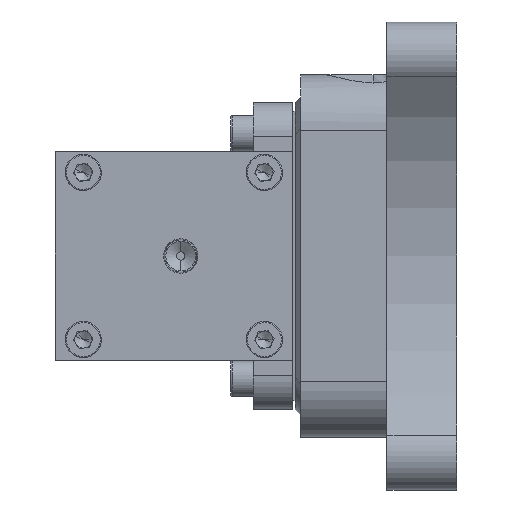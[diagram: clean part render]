
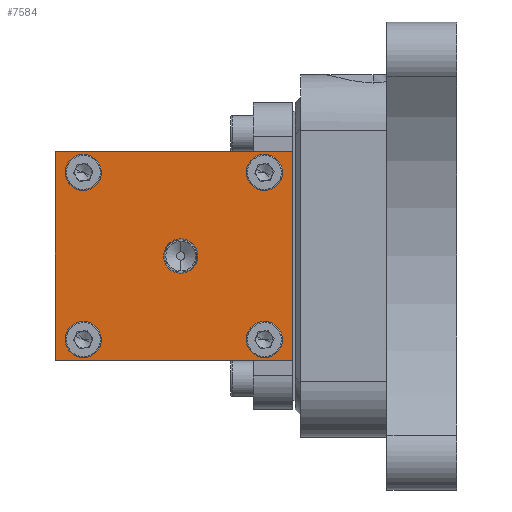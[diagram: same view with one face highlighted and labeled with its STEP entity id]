
A CAD part, left-side view. The second image highlights one B-rep face of the part: STEP entity #7584.
In plain terms, the highlighted planar face has unit normal (-1, 0, 0) as drawn and (1, 0, 0) by its records, which use the part's own axes.
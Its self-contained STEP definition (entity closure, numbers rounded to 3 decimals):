
#124 = CARTESIAN_POINT ( 'NONE',  ( 93., 11., -30. ) ) ;
#149 = ORIENTED_EDGE ( 'NONE', *, *, #5031, .F. ) ;
#232 = ORIENTED_EDGE ( 'NONE', *, *, #8127, .F. ) ;
#252 = VERTEX_POINT ( 'NONE', #3001 ) ;
#298 = ORIENTED_EDGE ( 'NONE', *, *, #5964, .F. ) ;
#521 = VECTOR ( 'NONE', #4876, 1000. ) ;
#529 = EDGE_CURVE ( 'NONE', #252, #8384, #2839, .T. ) ;
#627 = LINE ( 'NONE', #866, #6296 ) ;
#632 = CIRCLE ( 'NONE', #5971, 6.154 ) ;
#643 = DIRECTION ( 'NONE',  ( 0., 0., -1. ) ) ;
#647 = CARTESIAN_POINT ( 'NONE',  ( 93., 86., 37.5 ) ) ;
#813 = CARTESIAN_POINT ( 'NONE',  ( 93., 11., 26. ) ) ;
#833 = DIRECTION ( 'NONE',  ( 0., 0., -1. ) ) ;
#866 = CARTESIAN_POINT ( 'NONE',  ( 93., 86., -37.5 ) ) ;
#895 = FACE_BOUND ( 'NONE', #8436, .T. ) ;
#896 = EDGE_LOOP ( 'NONE', ( #1432, #8071 ) ) ;
#960 = EDGE_CURVE ( 'NONE', #6655, #9922, #6307, .T. ) ;
#961 = LINE ( 'NONE', #1494, #2906 ) ;
#1056 = EDGE_CURVE ( 'NONE', #9922, #6655, #1496, .T. ) ;
#1074 = VERTEX_POINT ( 'NONE', #6106 ) ;
#1097 = DIRECTION ( 'NONE',  ( 1., 0., 0. ) ) ;
#1156 = EDGE_CURVE ( 'NONE', #8384, #1074, #627, .T. ) ;
#1237 = CARTESIAN_POINT ( 'NONE',  ( 93., 76., -30. ) ) ;
#1286 = AXIS2_PLACEMENT_3D ( 'NONE', #5348, #8349, #7650 ) ;
#1300 = EDGE_CURVE ( 'NONE', #6313, #8486, #2473, .T. ) ;
#1404 = DIRECTION ( 'NONE',  ( 0., 0., -1. ) ) ;
#1415 = VERTEX_POINT ( 'NONE', #8415 ) ;
#1432 = ORIENTED_EDGE ( 'NONE', *, *, #9368, .F. ) ;
#1494 = CARTESIAN_POINT ( 'NONE',  ( 93., 86., 37.5 ) ) ;
#1496 = CIRCLE ( 'NONE', #1961, 4. ) ;
#1905 = EDGE_CURVE ( 'NONE', #9217, #6877, #5525, .T. ) ;
#1961 = AXIS2_PLACEMENT_3D ( 'NONE', #7686, #3002, #833 ) ;
#2031 = CIRCLE ( 'NONE', #1286, 4. ) ;
#2277 = DIRECTION ( 'NONE',  ( 0., 0., -1. ) ) ;
#2371 = CARTESIAN_POINT ( 'NONE',  ( 93., 11., -34. ) ) ;
#2410 = EDGE_LOOP ( 'NONE', ( #8240, #7606 ) ) ;
#2473 = CIRCLE ( 'NONE', #5049, 4. ) ;
#2519 = DIRECTION ( 'NONE',  ( 0., 0., -1. ) ) ;
#2534 = ORIENTED_EDGE ( 'NONE', *, *, #5666, .F. ) ;
#2642 = LINE ( 'NONE', #647, #3818 ) ;
#2779 = DIRECTION ( 'NONE',  ( 1., 0., 0. ) ) ;
#2839 = LINE ( 'NONE', #7923, #521 ) ;
#2906 = VECTOR ( 'NONE', #2277, 1000. ) ;
#2911 = DIRECTION ( 'NONE',  ( 0., 0., -1. ) ) ;
#2959 = CARTESIAN_POINT ( 'NONE',  ( 93., 1., -37.5 ) ) ;
#2978 = CARTESIAN_POINT ( 'NONE',  ( 93., 86., 37.5 ) ) ;
#2994 = CIRCLE ( 'NONE', #3409, 4. ) ;
#3001 = CARTESIAN_POINT ( 'NONE',  ( 93., 1., 37.5 ) ) ;
#3002 = DIRECTION ( 'NONE',  ( 1., 0., 0. ) ) ;
#3174 = DIRECTION ( 'NONE',  ( 1., 0., 0. ) ) ;
#3387 = AXIS2_PLACEMENT_3D ( 'NONE', #2978, #3741, #4508 ) ;
#3409 = AXIS2_PLACEMENT_3D ( 'NONE', #7472, #6009, #1404 ) ;
#3709 = CIRCLE ( 'NONE', #7332, 6.154 ) ;
#3722 = CARTESIAN_POINT ( 'NONE',  ( 93., 41., -6.154 ) ) ;
#3735 = AXIS2_PLACEMENT_3D ( 'NONE', #124, #7807, #3997 ) ;
#3741 = DIRECTION ( 'NONE',  ( -1., 0., 0. ) ) ;
#3818 = VECTOR ( 'NONE', #7645, 1000. ) ;
#3997 = DIRECTION ( 'NONE',  ( 0., 0., -1. ) ) ;
#4204 = CIRCLE ( 'NONE', #3735, 4. ) ;
#4469 = EDGE_CURVE ( 'NONE', #7731, #1074, #961, .T. ) ;
#4471 = CARTESIAN_POINT ( 'NONE',  ( 93., 11., -30. ) ) ;
#4508 = DIRECTION ( 'NONE',  ( 0., 0., 1. ) ) ;
#4625 = EDGE_CURVE ( 'NONE', #6877, #9217, #4204, .T. ) ;
#4631 = CARTESIAN_POINT ( 'NONE',  ( 93., 76., -34. ) ) ;
#4876 = DIRECTION ( 'NONE',  ( 0., 0., -1. ) ) ;
#5031 = EDGE_CURVE ( 'NONE', #8278, #5640, #3709, .T. ) ;
#5049 = AXIS2_PLACEMENT_3D ( 'NONE', #9768, #5932, #643 ) ;
#5056 = CARTESIAN_POINT ( 'NONE',  ( 93., 11., 30. ) ) ;
#5249 = DIRECTION ( 'NONE',  ( 1., 0., 0. ) ) ;
#5348 = CARTESIAN_POINT ( 'NONE',  ( 93., 76., 30. ) ) ;
#5378 = CARTESIAN_POINT ( 'NONE',  ( 93., 76., 26. ) ) ;
#5525 = CIRCLE ( 'NONE', #8819, 4. ) ;
#5629 = EDGE_CURVE ( 'NONE', #1415, #5775, #2994, .T. ) ;
#5640 = VERTEX_POINT ( 'NONE', #3722 ) ;
#5666 = EDGE_CURVE ( 'NONE', #8486, #6313, #2031, .T. ) ;
#5733 = CARTESIAN_POINT ( 'NONE',  ( 93., 11., -26. ) ) ;
#5755 = CARTESIAN_POINT ( 'NONE',  ( 93., 11., 34. ) ) ;
#5775 = VERTEX_POINT ( 'NONE', #4631 ) ;
#5827 = EDGE_LOOP ( 'NONE', ( #6171, #6681, #298, #7401 ) ) ;
#5932 = DIRECTION ( 'NONE',  ( 1., 0., 0. ) ) ;
#5949 = DIRECTION ( 'NONE',  ( 0., 0., -1. ) ) ;
#5964 = EDGE_CURVE ( 'NONE', #252, #7731, #2642, .T. ) ;
#5971 = AXIS2_PLACEMENT_3D ( 'NONE', #6359, #1097, #2519 ) ;
#6009 = DIRECTION ( 'NONE',  ( 1., 0., 0. ) ) ;
#6072 = AXIS2_PLACEMENT_3D ( 'NONE', #5056, #7226, #7999 ) ;
#6106 = CARTESIAN_POINT ( 'NONE',  ( 93., 86., -37.5 ) ) ;
#6171 = ORIENTED_EDGE ( 'NONE', *, *, #1156, .T. ) ;
#6296 = VECTOR ( 'NONE', #6353, 1000. ) ;
#6307 = CIRCLE ( 'NONE', #6072, 4. ) ;
#6312 = FACE_OUTER_BOUND ( 'NONE', #5827, .T. ) ;
#6313 = VERTEX_POINT ( 'NONE', #9451 ) ;
#6353 = DIRECTION ( 'NONE',  ( 0., 1., 0. ) ) ;
#6359 = CARTESIAN_POINT ( 'NONE',  ( 93., 41., 0. ) ) ;
#6655 = VERTEX_POINT ( 'NONE', #813 ) ;
#6681 = ORIENTED_EDGE ( 'NONE', *, *, #4469, .F. ) ;
#6706 = CARTESIAN_POINT ( 'NONE',  ( 93., 41., 0. ) ) ;
#6771 = FACE_BOUND ( 'NONE', #896, .T. ) ;
#6781 = PLANE ( 'NONE',  #3387 ) ;
#6877 = VERTEX_POINT ( 'NONE', #2371 ) ;
#7027 = FACE_BOUND ( 'NONE', #2410, .T. ) ;
#7226 = DIRECTION ( 'NONE',  ( 1., 0., 0. ) ) ;
#7235 = CIRCLE ( 'NONE', #9817, 4. ) ;
#7240 = ORIENTED_EDGE ( 'NONE', *, *, #1300, .F. ) ;
#7332 = AXIS2_PLACEMENT_3D ( 'NONE', #6706, #5249, #5949 ) ;
#7401 = ORIENTED_EDGE ( 'NONE', *, *, #529, .T. ) ;
#7472 = CARTESIAN_POINT ( 'NONE',  ( 93., 76., -30. ) ) ;
#7584 = ADVANCED_FACE ( 'NONE', ( #6312, #9766, #6771, #895, #7027, #7745 ), #6781, .F. ) ;
#7606 = ORIENTED_EDGE ( 'NONE', *, *, #1905, .F. ) ;
#7645 = DIRECTION ( 'NONE',  ( 0., 1., 0. ) ) ;
#7650 = DIRECTION ( 'NONE',  ( 0., 0., -1. ) ) ;
#7686 = CARTESIAN_POINT ( 'NONE',  ( 93., 11., 30. ) ) ;
#7725 = CARTESIAN_POINT ( 'NONE',  ( 93., 86., 37.5 ) ) ;
#7731 = VERTEX_POINT ( 'NONE', #7725 ) ;
#7745 = FACE_BOUND ( 'NONE', #9012, .T. ) ;
#7807 = DIRECTION ( 'NONE',  ( 1., 0., 0. ) ) ;
#7923 = CARTESIAN_POINT ( 'NONE',  ( 93., 1., 37.5 ) ) ;
#7999 = DIRECTION ( 'NONE',  ( 0., 0., -1. ) ) ;
#8071 = ORIENTED_EDGE ( 'NONE', *, *, #5629, .F. ) ;
#8127 = EDGE_CURVE ( 'NONE', #5640, #8278, #632, .T. ) ;
#8146 = ORIENTED_EDGE ( 'NONE', *, *, #1056, .F. ) ;
#8240 = ORIENTED_EDGE ( 'NONE', *, *, #4625, .F. ) ;
#8278 = VERTEX_POINT ( 'NONE', #8844 ) ;
#8349 = DIRECTION ( 'NONE',  ( 1., 0., 0. ) ) ;
#8384 = VERTEX_POINT ( 'NONE', #2959 ) ;
#8415 = CARTESIAN_POINT ( 'NONE',  ( 93., 76., -26. ) ) ;
#8436 = EDGE_LOOP ( 'NONE', ( #8589, #8146 ) ) ;
#8486 = VERTEX_POINT ( 'NONE', #5378 ) ;
#8538 = DIRECTION ( 'NONE',  ( 0., 0., -1. ) ) ;
#8589 = ORIENTED_EDGE ( 'NONE', *, *, #960, .F. ) ;
#8819 = AXIS2_PLACEMENT_3D ( 'NONE', #4471, #3174, #8538 ) ;
#8844 = CARTESIAN_POINT ( 'NONE',  ( 93., 41., 6.154 ) ) ;
#9012 = EDGE_LOOP ( 'NONE', ( #232, #149 ) ) ;
#9025 = EDGE_LOOP ( 'NONE', ( #2534, #7240 ) ) ;
#9217 = VERTEX_POINT ( 'NONE', #5733 ) ;
#9368 = EDGE_CURVE ( 'NONE', #5775, #1415, #7235, .T. ) ;
#9451 = CARTESIAN_POINT ( 'NONE',  ( 93., 76., 34. ) ) ;
#9766 = FACE_BOUND ( 'NONE', #9025, .T. ) ;
#9768 = CARTESIAN_POINT ( 'NONE',  ( 93., 76., 30. ) ) ;
#9817 = AXIS2_PLACEMENT_3D ( 'NONE', #1237, #2779, #2911 ) ;
#9922 = VERTEX_POINT ( 'NONE', #5755 ) ;
